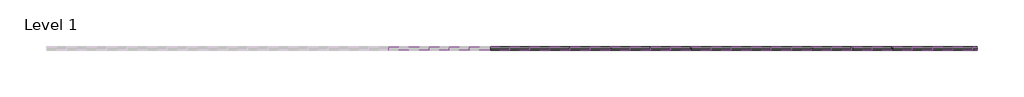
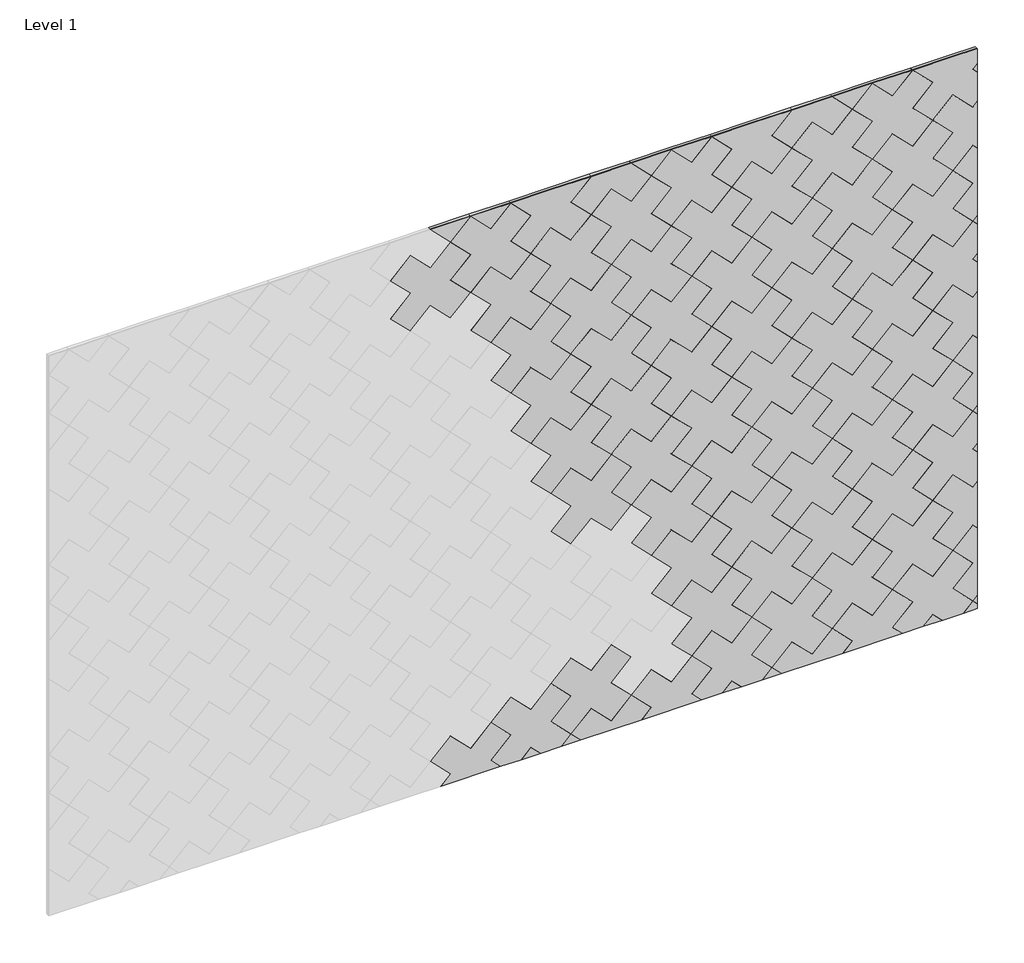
# One storey, part 2 of 2: 82 proxies.
"""IFC4 building model written with IfcOpenShell, lengths in millimetres."""

from ifc_helpers import new_model, si_unit, origin, place, context, project, spatial, transform, mapped, element, save
from components import plus_block_6a39ef65, plus_block_e310b0f0, plus_block_c1fa0fc9, plus_block_ed64af3b, plus_block_2c174317, plus_block_650cdf51, plus_block_13f65815, plus_block_0ad3cf2a, plus_block_45ecfcac, plus_block_6635bf12, plus_block_f5596ed8, plus_block_b4ba28bf, plus_block_2f8b0b56, plus_block_c293c2f2, plus_block_f8594fd8

model = new_model("IFC4")

# Units and contexts
model_context = context("Model", 3, world=origin())
ifc_project = project(units=[si_unit("LENGTHUNIT", "METRE", prefix="MILLI")], contexts=[model_context])

# Site, building, storey
site = spatial("IfcSite", under=ifc_project)
building = spatial("IfcBuilding", under=site)
storey = spatial("IfcBuildingStorey", under=building, Name="Level 1", Elevation=0.0)

# Proxies
placement = place(None, origin())
plus_block_shape = plus_block_6a39ef65(model_context)
element("IfcBuildingElementProxy", 1, Name="FilzFelt_Plus_Block : Plus Block", ObjectType="FilzFelt_Plus_Block : Plus Block", at=placement, inside=storey, context=model_context, shape_type="MappedRepresentation", body=[
    mapped(plus_block_shape, transform((21342.9703486, -17477.9339335, 1345.7765757), x_axis=(0.7071067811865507, 0.0, -0.7071067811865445), y_axis=(0.7071067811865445, 0.0, 0.7071067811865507), z_axis=(0.0, -1.0, 0.0))),
])
element("IfcBuildingElementProxy", 2, Name="FilzFelt_Plus_Block : Plus Block", ObjectType="FilzFelt_Plus_Block : Plus Block", at=placement, inside=storey, context=model_context, shape_type="MappedRepresentation", body=[
    mapped(plus_block_shape, transform((21630.5271062, -17477.9339335, 483.1063026), x_axis=(0.7071067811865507, 0.0, -0.7071067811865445), y_axis=(0.7071067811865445, 0.0, 0.7071067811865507), z_axis=(0.0, -1.0, 0.0))),
])
element("IfcBuildingElementProxy", 3, Name="FilzFelt_Plus_Block : Plus Block", ObjectType="FilzFelt_Plus_Block : Plus Block", at=placement, inside=storey, context=model_context, shape_type="MappedRepresentation", body=[
    mapped(plus_block_shape, transform((21774.3054851, -17477.9339335, 770.6630603), x_axis=(0.7071067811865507, 0.0, -0.7071067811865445), y_axis=(0.7071067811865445, 0.0, 0.7071067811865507), z_axis=(0.0, -1.0, 0.0))),
])
element("IfcBuildingElementProxy", 4, Name="FilzFelt_Plus_Block : Plus Block", ObjectType="FilzFelt_Plus_Block : Plus Block", at=placement, inside=storey, context=model_context, shape_type="MappedRepresentation", body=[
    mapped(plus_block_shape, transform((21989.9730533, -17477.9339335, 123.6603555), x_axis=(0.7071067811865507, 0.0, -0.7071067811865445), y_axis=(0.7071067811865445, 0.0, 0.7071067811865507), z_axis=(0.0, -1.0, 0.0))),
])
element("IfcBuildingElementProxy", 5, Name="FilzFelt_Plus_Block : Plus Block", ObjectType="FilzFelt_Plus_Block : Plus Block", at=placement, inside=storey, context=model_context, shape_type="MappedRepresentation", body=[
    mapped(plus_block_shape, transform((21630.5271062, -17477.9339335, 1201.9981968), x_axis=(0.7071067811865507, 0.0, -0.7071067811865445), y_axis=(0.7071067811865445, 0.0, 0.7071067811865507), z_axis=(0.0, -1.0, 0.0))),
])
element("IfcBuildingElementProxy", 6, Name="FilzFelt_Plus_Block : Plus Block", ObjectType="FilzFelt_Plus_Block : Plus Block", at=placement, inside=storey, context=model_context, shape_type="MappedRepresentation", body=[
    mapped(plus_block_shape, transform((21918.0838639, -17477.9339335, 1058.219818), x_axis=(0.7071067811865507, 0.0, -0.7071067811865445), y_axis=(0.7071067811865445, 0.0, 0.7071067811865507), z_axis=(0.0, -1.0, 0.0))),
])
element("IfcBuildingElementProxy", 7, Name="FilzFelt_Plus_Block : Plus Block", ObjectType="FilzFelt_Plus_Block : Plus Block", at=placement, inside=storey, context=model_context, shape_type="MappedRepresentation", body=[
    mapped(plus_block_shape, transform((22205.6406216, -17477.9339335, 914.4414391), x_axis=(0.7071067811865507, 0.0, -0.7071067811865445), y_axis=(0.7071067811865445, 0.0, 0.7071067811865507), z_axis=(0.0, -1.0, 0.0))),
])
element("IfcBuildingElementProxy", 8, Name="FilzFelt_Plus_Block : Plus Block", ObjectType="FilzFelt_Plus_Block : Plus Block", at=placement, inside=storey, context=model_context, shape_type="MappedRepresentation", body=[
    mapped(plus_block_shape, transform((22349.4190005, -17477.9339335, 483.1063026), x_axis=(0.7071067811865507, 0.0, -0.7071067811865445), y_axis=(0.7071067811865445, 0.0, 0.7071067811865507), z_axis=(0.0, -1.0, 0.0))),
])
element("IfcBuildingElementProxy", 9, Name="FilzFelt_Plus_Block : Plus Block", ObjectType="FilzFelt_Plus_Block : Plus Block", at=placement, inside=storey, context=model_context, shape_type="MappedRepresentation", body=[
    mapped(plus_block_shape, transform((22565.0865687, -17477.9339335, -163.8964022), x_axis=(0.7071067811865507, 0.0, -0.7071067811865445), y_axis=(0.7071067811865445, 0.0, 0.7071067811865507), z_axis=(0.0, -1.0, 0.0))),
])
element("IfcBuildingElementProxy", 10, Name="FilzFelt_Plus_Block : Plus Block", ObjectType="FilzFelt_Plus_Block : Plus Block", at=placement, inside=storey, context=model_context, shape_type="MappedRepresentation", body=[
    mapped(plus_block_shape, transform((22277.529811, -17477.9339335, 1417.6657651), x_axis=(0.7071067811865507, 0.0, -0.7071067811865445), y_axis=(0.7071067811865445, 0.0, 0.7071067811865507), z_axis=(0.0, -1.0, 0.0))),
])
element("IfcBuildingElementProxy", 11, Name="FilzFelt_Plus_Block : Plus Block", ObjectType="FilzFelt_Plus_Block : Plus Block", at=placement, inside=storey, context=model_context, shape_type="MappedRepresentation", body=[
    mapped(plus_block_shape, transform((22708.8649476, -17477.9339335, 123.6603555), x_axis=(0.7071067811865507, 0.0, -0.7071067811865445), y_axis=(0.7071067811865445, 0.0, 0.7071067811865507), z_axis=(0.0, -1.0, 0.0))),
])
element("IfcBuildingElementProxy", 12, Name="FilzFelt_Plus_Block : Plus Block", ObjectType="FilzFelt_Plus_Block : Plus Block", at=placement, inside=storey, context=model_context, shape_type="MappedRepresentation", body=[
    mapped(plus_block_shape, transform((22780.754137, -17477.9339335, 626.8846814), x_axis=(0.7071067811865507, 0.0, -0.7071067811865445), y_axis=(0.7071067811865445, 0.0, 0.7071067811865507), z_axis=(0.0, -1.0, 0.0))),
])
element("IfcBuildingElementProxy", 13, Name="FilzFelt_Plus_Block : Plus Block", ObjectType="FilzFelt_Plus_Block : Plus Block", at=placement, inside=storey, context=model_context, shape_type="MappedRepresentation", body=[
    mapped(plus_block_shape, transform((22780.754137, -17477.9339335, 1345.7765757), x_axis=(0.7071067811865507, 0.0, -0.7071067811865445), y_axis=(0.7071067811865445, 0.0, 0.7071067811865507), z_axis=(0.0, -1.0, 0.0))),
])
plus_block_2_shape = plus_block_e310b0f0(model_context)
element("IfcBuildingElementProxy", 14, Name="FilzFelt_Plus_Block : Plus Block", ObjectType="FilzFelt_Plus_Block : Plus Block", at=placement, inside=storey, context=model_context, shape_type="MappedRepresentation", body=[
    mapped(plus_block_2_shape, transform((21702.4162957, -17477.9339335, 1705.2225228), x_axis=(0.7071067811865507, 0.0, -0.7071067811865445), y_axis=(0.7071067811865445, 0.0, 0.7071067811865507), z_axis=(0.0, -1.0, 0.0))),
])
plus_block_3_shape = plus_block_c1fa0fc9(model_context)
element("IfcBuildingElementProxy", 15, Name="FilzFelt_Plus_Block : Plus Block", ObjectType="FilzFelt_Plus_Block : Plus Block", at=placement, inside=storey, context=model_context, shape_type="MappedRepresentation", body=[
    mapped(plus_block_3_shape, transform((22924.5325158, -17477.9339335, 1633.3333333), x_axis=(0.7071067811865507, 0.0, -0.7071067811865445), y_axis=(0.7071067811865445, 0.0, 0.7071067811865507), z_axis=(0.0, -1.0, 0.0))),
])
plus_block_4_shape = plus_block_ed64af3b(model_context)
element("IfcBuildingElementProxy", 16, Name="FilzFelt_Plus_Block : Plus Block", ObjectType="FilzFelt_Plus_Block : Plus Block", at=placement, inside=storey, context=model_context, shape_type="MappedRepresentation", body=[
    mapped(plus_block_4_shape, transform((23068.3108947, -17477.9339335, 483.1063026), x_axis=(0.7071067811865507, 0.0, -0.7071067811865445), y_axis=(0.7071067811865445, 0.0, 0.7071067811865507), z_axis=(0.0, -1.0, 0.0))),
])
element("IfcBuildingElementProxy", 17, Name="FilzFelt_Plus_Block : Plus Block", ObjectType="FilzFelt_Plus_Block : Plus Block", at=placement, inside=storey, context=model_context, shape_type="MappedRepresentation", body=[
    mapped(plus_block_4_shape, transform((23068.3108947, -17477.9339335, -235.7855916), x_axis=(0.7071067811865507, 0.0, -0.7071067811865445), y_axis=(0.7071067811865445, 0.0, 0.7071067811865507), z_axis=(0.0, -1.0, 0.0))),
])
plus_block_5_shape = plus_block_2c174317(model_context)
element("IfcBuildingElementProxy", 18, Name="FilzFelt_Plus_Block : Plus Block", ObjectType="FilzFelt_Plus_Block : Plus Block", at=placement, inside=storey, context=model_context, shape_type="MappedRepresentation", body=[
    mapped(plus_block_5_shape, transform((21702.4162957, -17477.9339335, -451.4531599), x_axis=(0.7071067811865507, 0.0, -0.7071067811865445), y_axis=(0.7071067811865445, 0.0, 0.7071067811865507), z_axis=(0.0, -1.0, 0.0))),
])
plus_block_6_shape = plus_block_650cdf51(model_context)
element("IfcBuildingElementProxy", 19, Name="FilzFelt_Plus_Block : Plus Block", ObjectType="FilzFelt_Plus_Block : Plus Block", at=placement, inside=storey, context=model_context, shape_type="MappedRepresentation", body=[
    mapped(plus_block_6_shape, transform((21414.859538, -17477.9339335, -307.674781), x_axis=(0.7071067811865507, 0.0, -0.7071067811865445), y_axis=(0.7071067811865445, 0.0, 0.7071067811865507), z_axis=(0.0, -1.0, 0.0))),
])
element("IfcBuildingElementProxy", 20, Name="FilzFelt_Plus_Block : Plus Block", ObjectType="FilzFelt_Plus_Block : Plus Block", at=placement, inside=storey, context=model_context, shape_type="MappedRepresentation", body=[
    mapped(plus_block_6_shape, transform((22133.7514322, -17477.9339335, -307.674781), x_axis=(0.7071067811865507, 0.0, -0.7071067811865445), y_axis=(0.7071067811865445, 0.0, 0.7071067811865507), z_axis=(0.0, -1.0, 0.0))),
])
plus_block_7_shape = plus_block_13f65815(model_context)
element("IfcBuildingElementProxy", 21, Name="FilzFelt_Plus_Block : Plus Block", ObjectType="FilzFelt_Plus_Block : Plus Block", at=placement, inside=storey, context=model_context, shape_type="MappedRepresentation", body=[
    mapped(plus_block_7_shape, transform((21486.7487274, -17477.9339335, -523.3423493), x_axis=(0.7071067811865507, 0.0, -0.7071067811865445), y_axis=(0.7071067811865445, 0.0, 0.7071067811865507), z_axis=(0.0, -1.0, 0.0))),
])
plus_block_8_shape = plus_block_0ad3cf2a(model_context)
element("IfcBuildingElementProxy", 22, Name="FilzFelt_Plus_Block : Plus Block", ObjectType="FilzFelt_Plus_Block : Plus Block", at=placement, inside=storey, context=model_context, shape_type="MappedRepresentation", body=[
    mapped(plus_block_8_shape, transform((22924.5325158, -17477.9339335, -523.3423493), x_axis=(0.7071067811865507, 0.0, -0.7071067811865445), y_axis=(0.7071067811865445, 0.0, 0.7071067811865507), z_axis=(0.0, -1.0, 0.0))),
])
plus_block_9_shape = plus_block_45ecfcac(model_context)
element("IfcBuildingElementProxy", 23, Name="FilzFelt_Plus_Block : Plus Block", ObjectType="FilzFelt_Plus_Block : Plus Block", at=placement, inside=storey, context=model_context, shape_type="MappedRepresentation", body=[
    mapped(plus_block_9_shape, transform((22636.9757581, -17477.9339335, 1777.1117122), x_axis=(0.7071067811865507, 0.0, -0.7071067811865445), y_axis=(0.7071067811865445, 0.0, 0.7071067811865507), z_axis=(0.0, -1.0, 0.0))),
])
plus_block_10_shape = plus_block_6635bf12(model_context)
element("IfcBuildingElementProxy", 24, Name="FilzFelt_Plus_Block : Plus Block", ObjectType="FilzFelt_Plus_Block : Plus Block", at=placement, inside=storey, context=model_context, shape_type="MappedRepresentation", body=[
    mapped(plus_block_10_shape, transform((23140.2000841, -17477.9339335, 1561.4441439), x_axis=(0.7071067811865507, 0.0, -0.7071067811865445), y_axis=(0.7071067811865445, 0.0, 0.7071067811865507), z_axis=(0.0, -1.0, 0.0))),
])
element("IfcBuildingElementProxy", 25, Name="FilzFelt_Plus_Block : Plus Block", ObjectType="FilzFelt_Plus_Block : Plus Block", at=placement, inside=storey, context=model_context, shape_type="MappedRepresentation", body=[
    mapped(plus_block_10_shape, transform((23140.2000841, -17477.9339335, -451.4531599), x_axis=(0.7071067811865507, 0.0, -0.7071067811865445), y_axis=(0.7071067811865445, 0.0, 0.7071067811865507), z_axis=(0.0, -1.0, 0.0))),
])
plus_block_11_shape = plus_block_f5596ed8(model_context)
element("IfcBuildingElementProxy", 26, Name="FilzFelt_Plus_Block : Plus Block", ObjectType="FilzFelt_Plus_Block : Plus Block", at=placement, inside=storey, context=model_context, shape_type="MappedRepresentation", body=[
    mapped(plus_block_11_shape, transform((23140.2000841, -17477.9339335, 986.3306285), x_axis=(0.7071067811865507, 0.0, -0.7071067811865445), y_axis=(0.7071067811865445, 0.0, 0.7071067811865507), z_axis=(0.0, -1.0, 0.0))),
])
element("IfcBuildingElementProxy", 27, Name="FilzFelt_Plus_Block : Plus Block", ObjectType="FilzFelt_Plus_Block : Plus Block", at=placement, inside=storey, context=model_context, shape_type="MappedRepresentation", body=[
    mapped(plus_block_11_shape, transform((23140.2000841, -17477.9339335, 267.4387343), x_axis=(0.7071067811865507, 0.0, -0.7071067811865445), y_axis=(0.7071067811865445, 0.0, 0.7071067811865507), z_axis=(0.0, -1.0, 0.0))),
])
element("IfcBuildingElementProxy", 28, Name="FilzFelt_Plus_Block : Plus Block", ObjectType="FilzFelt_Plus_Block : Plus Block", at=placement, inside=storey, context=model_context, shape_type="MappedRepresentation", body=[
    mapped(plus_block_shape, transform((21486.7487274, -17477.9339335, 914.4414391), x_axis=(0.7071067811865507, 0.0, -0.7071067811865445), y_axis=(0.7071067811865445, 0.0, 0.7071067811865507), z_axis=(0.0, -1.0, 0.0))),
])
element("IfcBuildingElementProxy", 29, Name="FilzFelt_Plus_Block : Plus Block", ObjectType="FilzFelt_Plus_Block : Plus Block", at=placement, inside=storey, context=model_context, shape_type="MappedRepresentation", body=[
    mapped(plus_block_shape, transform((22277.529811, -17477.9339335, -20.1180233), x_axis=(0.7071067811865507, 0.0, -0.7071067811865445), y_axis=(0.7071067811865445, 0.0, 0.7071067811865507), z_axis=(0.0, -1.0, 0.0))),
])
element("IfcBuildingElementProxy", 30, Name="FilzFelt_Plus_Block : Plus Block", ObjectType="FilzFelt_Plus_Block : Plus Block", at=placement, inside=storey, context=model_context, shape_type="MappedRepresentation", body=[
    mapped(plus_block_shape, transform((22133.7514322, -17477.9339335, 411.2171132), x_axis=(0.7071067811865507, 0.0, -0.7071067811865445), y_axis=(0.7071067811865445, 0.0, 0.7071067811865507), z_axis=(0.0, -1.0, 0.0))),
])
element("IfcBuildingElementProxy", 31, Name="FilzFelt_Plus_Block : Plus Block", ObjectType="FilzFelt_Plus_Block : Plus Block", at=placement, inside=storey, context=model_context, shape_type="MappedRepresentation", body=[
    mapped(plus_block_shape, transform((21989.9730533, -17477.9339335, 842.5522497), x_axis=(0.7071067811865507, 0.0, -0.7071067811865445), y_axis=(0.7071067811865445, 0.0, 0.7071067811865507), z_axis=(0.0, -1.0, 0.0))),
])
element("IfcBuildingElementProxy", 32, Name="FilzFelt_Plus_Block : Plus Block", ObjectType="FilzFelt_Plus_Block : Plus Block", at=placement, inside=storey, context=model_context, shape_type="MappedRepresentation", body=[
    mapped(plus_block_shape, transform((21774.3054851, -17477.9339335, 1489.5549545), x_axis=(0.7071067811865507, 0.0, -0.7071067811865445), y_axis=(0.7071067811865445, 0.0, 0.7071067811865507), z_axis=(0.0, -1.0, 0.0))),
])
element("IfcBuildingElementProxy", 33, Name="FilzFelt_Plus_Block : Plus Block", ObjectType="FilzFelt_Plus_Block : Plus Block", at=placement, inside=storey, context=model_context, shape_type="MappedRepresentation", body=[
    mapped(plus_block_shape, transform((22133.7514322, -17477.9339335, 1130.1090074), x_axis=(0.7071067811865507, 0.0, -0.7071067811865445), y_axis=(0.7071067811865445, 0.0, 0.7071067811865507), z_axis=(0.0, -1.0, 0.0))),
])
element("IfcBuildingElementProxy", 34, Name="FilzFelt_Plus_Block : Plus Block", ObjectType="FilzFelt_Plus_Block : Plus Block", at=placement, inside=storey, context=model_context, shape_type="MappedRepresentation", body=[
    mapped(plus_block_shape, transform((22277.529811, -17477.9339335, 698.7738709), x_axis=(0.7071067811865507, 0.0, -0.7071067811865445), y_axis=(0.7071067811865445, 0.0, 0.7071067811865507), z_axis=(0.0, -1.0, 0.0))),
])
element("IfcBuildingElementProxy", 35, Name="FilzFelt_Plus_Block : Plus Block", ObjectType="FilzFelt_Plus_Block : Plus Block", at=placement, inside=storey, context=model_context, shape_type="MappedRepresentation", body=[
    mapped(plus_block_shape, transform((22565.0865687, -17477.9339335, 554.995492), x_axis=(0.7071067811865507, 0.0, -0.7071067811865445), y_axis=(0.7071067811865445, 0.0, 0.7071067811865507), z_axis=(0.0, -1.0, 0.0))),
])
element("IfcBuildingElementProxy", 36, Name="FilzFelt_Plus_Block : Plus Block", ObjectType="FilzFelt_Plus_Block : Plus Block", at=placement, inside=storey, context=model_context, shape_type="MappedRepresentation", body=[
    mapped(plus_block_shape, transform((22708.8649476, -17477.9339335, 842.5522497), x_axis=(0.7071067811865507, 0.0, -0.7071067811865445), y_axis=(0.7071067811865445, 0.0, 0.7071067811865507), z_axis=(0.0, -1.0, 0.0))),
])
element("IfcBuildingElementProxy", 37, Name="FilzFelt_Plus_Block : Plus Block", ObjectType="FilzFelt_Plus_Block : Plus Block", at=placement, inside=storey, context=model_context, shape_type="MappedRepresentation", body=[
    mapped(plus_block_shape, transform((22565.0865687, -17477.9339335, 1273.8873862), x_axis=(0.7071067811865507, 0.0, -0.7071067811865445), y_axis=(0.7071067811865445, 0.0, 0.7071067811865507), z_axis=(0.0, -1.0, 0.0))),
])
element("IfcBuildingElementProxy", 38, Name="FilzFelt_Plus_Block : Plus Block", ObjectType="FilzFelt_Plus_Block : Plus Block", at=placement, inside=storey, context=model_context, shape_type="MappedRepresentation", body=[
    mapped(plus_block_shape, transform((22708.8649476, -17477.9339335, 1561.4441439), x_axis=(0.7071067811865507, 0.0, -0.7071067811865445), y_axis=(0.7071067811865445, 0.0, 0.7071067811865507), z_axis=(0.0, -1.0, 0.0))),
])
element("IfcBuildingElementProxy", 39, Name="FilzFelt_Plus_Block : Plus Block", ObjectType="FilzFelt_Plus_Block : Plus Block", at=placement, inside=storey, context=model_context, shape_type="MappedRepresentation", body=[
    mapped(plus_block_shape, transform((21630.5271062, -17477.9339335, -235.7855916), x_axis=(0.7071067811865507, 0.0, -0.7071067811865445), y_axis=(0.7071067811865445, 0.0, 0.7071067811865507), z_axis=(0.0, -1.0, 0.0))),
])
plus_block_12_shape = plus_block_b4ba28bf(model_context)
element("IfcBuildingElementProxy", 40, Name="FilzFelt_Plus_Block : Plus Block", ObjectType="FilzFelt_Plus_Block : Plus Block", at=placement, inside=storey, context=model_context, shape_type="MappedRepresentation", body=[
    mapped(plus_block_12_shape, transform((22205.6406216, -17477.9339335, 1633.3333333), x_axis=(0.7071067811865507, 0.0, -0.7071067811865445), y_axis=(0.7071067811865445, 0.0, 0.7071067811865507), z_axis=(0.0, -1.0, 0.0))),
])
element("IfcBuildingElementProxy", 41, Name="FilzFelt_Plus_Block : Plus Block", ObjectType="FilzFelt_Plus_Block : Plus Block", at=placement, inside=storey, context=model_context, shape_type="MappedRepresentation", body=[
    mapped(plus_block_5_shape, transform((22421.3081899, -17477.9339335, -451.4531599), x_axis=(0.7071067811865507, 0.0, -0.7071067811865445), y_axis=(0.7071067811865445, 0.0, 0.7071067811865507), z_axis=(0.0, -1.0, 0.0))),
])
plus_block_13_shape = plus_block_2f8b0b56(model_context)
element("IfcBuildingElementProxy", 42, Name="FilzFelt_Plus_Block : Plus Block", ObjectType="FilzFelt_Plus_Block : Plus Block", at=placement, inside=storey, context=model_context, shape_type="MappedRepresentation", body=[
    mapped(plus_block_13_shape, transform((22996.4217052, -17477.9339335, 698.7738709), x_axis=(0.7071067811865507, 0.0, -0.7071067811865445), y_axis=(0.7071067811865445, 0.0, 0.7071067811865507), z_axis=(0.0, -1.0, 0.0))),
])
plus_block_14_shape = plus_block_c293c2f2(model_context)
element("IfcBuildingElementProxy", 43, Name="FilzFelt_Plus_Block : Plus Block", ObjectType="FilzFelt_Plus_Block : Plus Block", at=placement, inside=storey, context=model_context, shape_type="MappedRepresentation", body=[
    mapped(plus_block_14_shape, transform((22924.5325158, -17477.9339335, 195.5495449), x_axis=(0.7071067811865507, 0.0, -0.7071067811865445), y_axis=(0.7071067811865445, 0.0, 0.7071067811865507), z_axis=(0.0, -1.0, 0.0))),
])
element("IfcBuildingElementProxy", 44, Name="FilzFelt_Plus_Block : Plus Block", ObjectType="FilzFelt_Plus_Block : Plus Block", at=placement, inside=storey, context=model_context, shape_type="MappedRepresentation", body=[
    mapped(plus_block_shape, transform((21055.4135909, -17477.9339335, 1489.5549545), x_axis=(0.7071067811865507, 0.0, -0.7071067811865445), y_axis=(0.7071067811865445, 0.0, 0.7071067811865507), z_axis=(0.0, -1.0, 0.0))),
])
element("IfcBuildingElementProxy", 45, Name="FilzFelt_Plus_Block : Plus Block", ObjectType="FilzFelt_Plus_Block : Plus Block", at=placement, inside=storey, context=model_context, shape_type="MappedRepresentation", body=[
    mapped(plus_block_shape, transform((21918.0838639, -17477.9339335, 339.3279238), x_axis=(0.7071067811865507, 0.0, -0.7071067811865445), y_axis=(0.7071067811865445, 0.0, 0.7071067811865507), z_axis=(0.0, -1.0, 0.0))),
])
element("IfcBuildingElementProxy", 46, Name="FilzFelt_Plus_Block : Plus Block", ObjectType="FilzFelt_Plus_Block : Plus Block", at=placement, inside=storey, context=model_context, shape_type="MappedRepresentation", body=[
    mapped(plus_block_shape, transform((22061.8622428, -17477.9339335, -92.0072128), x_axis=(0.7071067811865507, 0.0, -0.7071067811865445), y_axis=(0.7071067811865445, 0.0, 0.7071067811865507), z_axis=(0.0, -1.0, 0.0))),
])
element("IfcBuildingElementProxy", 47, Name="FilzFelt_Plus_Block : Plus Block", ObjectType="FilzFelt_Plus_Block : Plus Block", at=placement, inside=storey, context=model_context, shape_type="MappedRepresentation", body=[
    mapped(plus_block_shape, transform((22205.6406216, -17477.9339335, 195.5495449), x_axis=(0.7071067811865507, 0.0, -0.7071067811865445), y_axis=(0.7071067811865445, 0.0, 0.7071067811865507), z_axis=(0.0, -1.0, 0.0))),
])
element("IfcBuildingElementProxy", 48, Name="FilzFelt_Plus_Block : Plus Block", ObjectType="FilzFelt_Plus_Block : Plus Block", at=placement, inside=storey, context=model_context, shape_type="MappedRepresentation", body=[
    mapped(plus_block_shape, transform((22061.8622428, -17477.9339335, 626.8846814), x_axis=(0.7071067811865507, 0.0, -0.7071067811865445), y_axis=(0.7071067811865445, 0.0, 0.7071067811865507), z_axis=(0.0, -1.0, 0.0))),
])
element("IfcBuildingElementProxy", 49, Name="FilzFelt_Plus_Block : Plus Block", ObjectType="FilzFelt_Plus_Block : Plus Block", at=placement, inside=storey, context=model_context, shape_type="MappedRepresentation", body=[
    mapped(plus_block_shape, transform((21702.4162957, -17477.9339335, 986.3306285), x_axis=(0.7071067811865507, 0.0, -0.7071067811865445), y_axis=(0.7071067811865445, 0.0, 0.7071067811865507), z_axis=(0.0, -1.0, 0.0))),
])
element("IfcBuildingElementProxy", 50, Name="FilzFelt_Plus_Block : Plus Block", ObjectType="FilzFelt_Plus_Block : Plus Block", at=placement, inside=storey, context=model_context, shape_type="MappedRepresentation", body=[
    mapped(plus_block_shape, transform((21558.6379168, -17477.9339335, 1417.6657651), x_axis=(0.7071067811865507, 0.0, -0.7071067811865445), y_axis=(0.7071067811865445, 0.0, 0.7071067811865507), z_axis=(0.0, -1.0, 0.0))),
])
element("IfcBuildingElementProxy", 51, Name="FilzFelt_Plus_Block : Plus Block", ObjectType="FilzFelt_Plus_Block : Plus Block", at=placement, inside=storey, context=model_context, shape_type="MappedRepresentation", body=[
    mapped(plus_block_shape, transform((21846.1946745, -17477.9339335, 1273.8873862), x_axis=(0.7071067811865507, 0.0, -0.7071067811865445), y_axis=(0.7071067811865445, 0.0, 0.7071067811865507), z_axis=(0.0, -1.0, 0.0))),
])
element("IfcBuildingElementProxy", 52, Name="FilzFelt_Plus_Block : Plus Block", ObjectType="FilzFelt_Plus_Block : Plus Block", at=placement, inside=storey, context=model_context, shape_type="MappedRepresentation", body=[
    mapped(plus_block_shape, transform((21989.9730533, -17477.9339335, 1561.4441439), x_axis=(0.7071067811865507, 0.0, -0.7071067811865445), y_axis=(0.7071067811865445, 0.0, 0.7071067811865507), z_axis=(0.0, -1.0, 0.0))),
])
element("IfcBuildingElementProxy", 53, Name="FilzFelt_Plus_Block : Plus Block", ObjectType="FilzFelt_Plus_Block : Plus Block", at=placement, inside=storey, context=model_context, shape_type="MappedRepresentation", body=[
    mapped(plus_block_shape, transform((22493.1973793, -17477.9339335, 51.7711661), x_axis=(0.7071067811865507, 0.0, -0.7071067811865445), y_axis=(0.7071067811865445, 0.0, 0.7071067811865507), z_axis=(0.0, -1.0, 0.0))),
])
element("IfcBuildingElementProxy", 54, Name="FilzFelt_Plus_Block : Plus Block", ObjectType="FilzFelt_Plus_Block : Plus Block", at=placement, inside=storey, context=model_context, shape_type="MappedRepresentation", body=[
    mapped(plus_block_shape, transform((22349.4190005, -17477.9339335, 1201.9981968), x_axis=(0.7071067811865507, 0.0, -0.7071067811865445), y_axis=(0.7071067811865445, 0.0, 0.7071067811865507), z_axis=(0.0, -1.0, 0.0))),
])
element("IfcBuildingElementProxy", 55, Name="FilzFelt_Plus_Block : Plus Block", ObjectType="FilzFelt_Plus_Block : Plus Block", at=placement, inside=storey, context=model_context, shape_type="MappedRepresentation", body=[
    mapped(plus_block_shape, transform((22493.1973793, -17477.9339335, 770.6630603), x_axis=(0.7071067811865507, 0.0, -0.7071067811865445), y_axis=(0.7071067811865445, 0.0, 0.7071067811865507), z_axis=(0.0, -1.0, 0.0))),
])
element("IfcBuildingElementProxy", 56, Name="FilzFelt_Plus_Block : Plus Block", ObjectType="FilzFelt_Plus_Block : Plus Block", at=placement, inside=storey, context=model_context, shape_type="MappedRepresentation", body=[
    mapped(plus_block_shape, transform((22636.9757581, -17477.9339335, 1058.219818), x_axis=(0.7071067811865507, 0.0, -0.7071067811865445), y_axis=(0.7071067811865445, 0.0, 0.7071067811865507), z_axis=(0.0, -1.0, 0.0))),
])
element("IfcBuildingElementProxy", 57, Name="FilzFelt_Plus_Block : Plus Block", ObjectType="FilzFelt_Plus_Block : Plus Block", at=placement, inside=storey, context=model_context, shape_type="MappedRepresentation", body=[
    mapped(plus_block_shape, transform((22349.4190005, -17477.9339335, -235.7855916), x_axis=(0.7071067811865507, 0.0, -0.7071067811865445), y_axis=(0.7071067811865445, 0.0, 0.7071067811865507), z_axis=(0.0, -1.0, 0.0))),
])
element("IfcBuildingElementProxy", 58, Name="FilzFelt_Plus_Block : Plus Block", ObjectType="FilzFelt_Plus_Block : Plus Block", at=placement, inside=storey, context=model_context, shape_type="MappedRepresentation", body=[
    mapped(plus_block_12_shape, transform((21486.7487274, -17477.9339335, 1633.3333333), x_axis=(0.7071067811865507, 0.0, -0.7071067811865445), y_axis=(0.7071067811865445, 0.0, 0.7071067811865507), z_axis=(0.0, -1.0, 0.0))),
])
element("IfcBuildingElementProxy", 59, Name="FilzFelt_Plus_Block : Plus Block", ObjectType="FilzFelt_Plus_Block : Plus Block", at=placement, inside=storey, context=model_context, shape_type="MappedRepresentation", body=[
    mapped(plus_block_9_shape, transform((21199.1919697, -17477.9339335, 1777.1117122), x_axis=(0.7071067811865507, 0.0, -0.7071067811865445), y_axis=(0.7071067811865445, 0.0, 0.7071067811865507), z_axis=(0.0, -1.0, 0.0))),
])
element("IfcBuildingElementProxy", 60, Name="FilzFelt_Plus_Block : Plus Block", ObjectType="FilzFelt_Plus_Block : Plus Block", at=placement, inside=storey, context=model_context, shape_type="MappedRepresentation", body=[
    mapped(plus_block_9_shape, transform((21918.0838639, -17477.9339335, 1777.1117122), x_axis=(0.7071067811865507, 0.0, -0.7071067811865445), y_axis=(0.7071067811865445, 0.0, 0.7071067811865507), z_axis=(0.0, -1.0, 0.0))),
])
element("IfcBuildingElementProxy", 61, Name="FilzFelt_Plus_Block : Plus Block", ObjectType="FilzFelt_Plus_Block : Plus Block", at=placement, inside=storey, context=model_context, shape_type="MappedRepresentation", body=[
    mapped(plus_block_2_shape, transform((22421.3081899, -17477.9339335, 1705.2225228), x_axis=(0.7071067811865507, 0.0, -0.7071067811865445), y_axis=(0.7071067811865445, 0.0, 0.7071067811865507), z_axis=(0.0, -1.0, 0.0))),
])
element("IfcBuildingElementProxy", 62, Name="FilzFelt_Plus_Block : Plus Block", ObjectType="FilzFelt_Plus_Block : Plus Block", at=placement, inside=storey, context=model_context, shape_type="MappedRepresentation", body=[
    mapped(plus_block_13_shape, transform((22996.4217052, -17477.9339335, 1417.6657651), x_axis=(0.7071067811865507, 0.0, -0.7071067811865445), y_axis=(0.7071067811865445, 0.0, 0.7071067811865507), z_axis=(0.0, -1.0, 0.0))),
])
element("IfcBuildingElementProxy", 63, Name="FilzFelt_Plus_Block : Plus Block", ObjectType="FilzFelt_Plus_Block : Plus Block", at=placement, inside=storey, context=model_context, shape_type="MappedRepresentation", body=[
    mapped(plus_block_13_shape, transform((22996.4217052, -17477.9339335, -20.1180233), x_axis=(0.7071067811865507, 0.0, -0.7071067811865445), y_axis=(0.7071067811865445, 0.0, 0.7071067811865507), z_axis=(0.0, -1.0, 0.0))),
])
element("IfcBuildingElementProxy", 64, Name="FilzFelt_Plus_Block : Plus Block", ObjectType="FilzFelt_Plus_Block : Plus Block", at=placement, inside=storey, context=model_context, shape_type="MappedRepresentation", body=[
    mapped(plus_block_14_shape, transform((22924.5325158, -17477.9339335, 914.4414391), x_axis=(0.7071067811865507, 0.0, -0.7071067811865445), y_axis=(0.7071067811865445, 0.0, 0.7071067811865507), z_axis=(0.0, -1.0, 0.0))),
])
element("IfcBuildingElementProxy", 65, Name="FilzFelt_Plus_Block : Plus Block", ObjectType="FilzFelt_Plus_Block : Plus Block", at=placement, inside=storey, context=model_context, shape_type="MappedRepresentation", body=[
    mapped(plus_block_shape, transform((22852.6433264, -17477.9339335, 411.2171132), x_axis=(0.7071067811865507, 0.0, -0.7071067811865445), y_axis=(0.7071067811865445, 0.0, 0.7071067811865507), z_axis=(0.0, -1.0, 0.0))),
])
plus_block_15_shape = plus_block_f8594fd8(model_context)
element("IfcBuildingElementProxy", 66, Name="FilzFelt_Plus_Block : Plus Block", ObjectType="FilzFelt_Plus_Block : Plus Block", at=placement, inside=storey, context=model_context, shape_type="MappedRepresentation", body=[
    mapped(plus_block_15_shape, transform((22636.9757581, -17477.9339335, -379.5639704), x_axis=(0.7071067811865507, 0.0, -0.7071067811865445), y_axis=(0.7071067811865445, 0.0, 0.7071067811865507), z_axis=(0.0, -1.0, 0.0))),
])
element("IfcBuildingElementProxy", 67, Name="FilzFelt_Plus_Block : Plus Block", ObjectType="FilzFelt_Plus_Block : Plus Block", at=placement, inside=storey, context=model_context, shape_type="MappedRepresentation", body=[
    mapped(plus_block_shape, transform((21271.0811591, -17477.9339335, 1561.4441439), x_axis=(0.7071067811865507, 0.0, -0.7071067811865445), y_axis=(0.7071067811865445, 0.0, 0.7071067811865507), z_axis=(0.0, -1.0, 0.0))),
])
element("IfcBuildingElementProxy", 68, Name="FilzFelt_Plus_Block : Plus Block", ObjectType="FilzFelt_Plus_Block : Plus Block", at=placement, inside=storey, context=model_context, shape_type="MappedRepresentation", body=[
    mapped(plus_block_shape, transform((21414.859538, -17477.9339335, 1130.1090074), x_axis=(0.7071067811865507, 0.0, -0.7071067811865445), y_axis=(0.7071067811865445, 0.0, 0.7071067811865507), z_axis=(0.0, -1.0, 0.0))),
])
element("IfcBuildingElementProxy", 69, Name="FilzFelt_Plus_Block : Plus Block", ObjectType="FilzFelt_Plus_Block : Plus Block", at=placement, inside=storey, context=model_context, shape_type="MappedRepresentation", body=[
    mapped(plus_block_shape, transform((21846.1946745, -17477.9339335, 554.995492), x_axis=(0.7071067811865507, 0.0, -0.7071067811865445), y_axis=(0.7071067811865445, 0.0, 0.7071067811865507), z_axis=(0.0, -1.0, 0.0))),
])
element("IfcBuildingElementProxy", 70, Name="FilzFelt_Plus_Block : Plus Block", ObjectType="FilzFelt_Plus_Block : Plus Block", at=placement, inside=storey, context=model_context, shape_type="MappedRepresentation", body=[
    mapped(plus_block_shape, transform((22421.3081899, -17477.9339335, 267.4387343), x_axis=(0.7071067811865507, 0.0, -0.7071067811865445), y_axis=(0.7071067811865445, 0.0, 0.7071067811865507), z_axis=(0.0, -1.0, 0.0))),
])
element("IfcBuildingElementProxy", 71, Name="FilzFelt_Plus_Block : Plus Block", ObjectType="FilzFelt_Plus_Block : Plus Block", at=placement, inside=storey, context=model_context, shape_type="MappedRepresentation", body=[
    mapped(plus_block_shape, transform((22493.1973793, -17477.9339335, 1489.5549545), x_axis=(0.7071067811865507, 0.0, -0.7071067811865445), y_axis=(0.7071067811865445, 0.0, 0.7071067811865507), z_axis=(0.0, -1.0, 0.0))),
])
element("IfcBuildingElementProxy", 72, Name="FilzFelt_Plus_Block : Plus Block", ObjectType="FilzFelt_Plus_Block : Plus Block", at=placement, inside=storey, context=model_context, shape_type="MappedRepresentation", body=[
    mapped(plus_block_4_shape, transform((23068.3108947, -17477.9339335, 1201.9981968), x_axis=(0.7071067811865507, 0.0, -0.7071067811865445), y_axis=(0.7071067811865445, 0.0, 0.7071067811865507), z_axis=(0.0, -1.0, 0.0))),
])
element("IfcBuildingElementProxy", 73, Name="FilzFelt_Plus_Block : Plus Block", ObjectType="FilzFelt_Plus_Block : Plus Block", at=placement, inside=storey, context=model_context, shape_type="MappedRepresentation", body=[
    mapped(plus_block_15_shape, transform((21918.0838639, -17477.9339335, -379.5639704), x_axis=(0.7071067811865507, 0.0, -0.7071067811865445), y_axis=(0.7071067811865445, 0.0, 0.7071067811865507), z_axis=(0.0, -1.0, 0.0))),
])
element("IfcBuildingElementProxy", 74, Name="FilzFelt_Plus_Block : Plus Block", ObjectType="FilzFelt_Plus_Block : Plus Block", at=placement, inside=storey, context=model_context, shape_type="MappedRepresentation", body=[
    mapped(plus_block_7_shape, transform((22205.6406216, -17477.9339335, -523.3423493), x_axis=(0.7071067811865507, 0.0, -0.7071067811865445), y_axis=(0.7071067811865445, 0.0, 0.7071067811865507), z_axis=(0.0, -1.0, 0.0))),
])
element("IfcBuildingElementProxy", 75, Name="FilzFelt_Plus_Block : Plus Block", ObjectType="FilzFelt_Plus_Block : Plus Block", at=placement, inside=storey, context=model_context, shape_type="MappedRepresentation", body=[
    mapped(plus_block_6_shape, transform((22852.6433264, -17477.9339335, -307.674781), x_axis=(0.7071067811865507, 0.0, -0.7071067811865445), y_axis=(0.7071067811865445, 0.0, 0.7071067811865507), z_axis=(0.0, -1.0, 0.0))),
])
element("IfcBuildingElementProxy", 76, Name="FilzFelt_Plus_Block : Plus Block", ObjectType="FilzFelt_Plus_Block : Plus Block", at=placement, inside=storey, context=model_context, shape_type="MappedRepresentation", body=[
    mapped(plus_block_shape, transform((21558.6379168, -17477.9339335, 698.7738709), x_axis=(0.7071067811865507, 0.0, -0.7071067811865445), y_axis=(0.7071067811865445, 0.0, 0.7071067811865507), z_axis=(0.0, -1.0, 0.0))),
])
element("IfcBuildingElementProxy", 77, Name="FilzFelt_Plus_Block : Plus Block", ObjectType="FilzFelt_Plus_Block : Plus Block", at=placement, inside=storey, context=model_context, shape_type="MappedRepresentation", body=[
    mapped(plus_block_shape, transform((22061.8622428, -17477.9339335, 1345.7765757), x_axis=(0.7071067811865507, 0.0, -0.7071067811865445), y_axis=(0.7071067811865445, 0.0, 0.7071067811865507), z_axis=(0.0, -1.0, 0.0))),
])
element("IfcBuildingElementProxy", 78, Name="FilzFelt_Plus_Block : Plus Block", ObjectType="FilzFelt_Plus_Block : Plus Block", at=placement, inside=storey, context=model_context, shape_type="MappedRepresentation", body=[
    mapped(plus_block_shape, transform((22421.3081899, -17477.9339335, 986.3306285), x_axis=(0.7071067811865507, 0.0, -0.7071067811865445), y_axis=(0.7071067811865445, 0.0, 0.7071067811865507), z_axis=(0.0, -1.0, 0.0))),
])
element("IfcBuildingElementProxy", 79, Name="FilzFelt_Plus_Block : Plus Block", ObjectType="FilzFelt_Plus_Block : Plus Block", at=placement, inside=storey, context=model_context, shape_type="MappedRepresentation", body=[
    mapped(plus_block_shape, transform((22636.9757581, -17477.9339335, 339.3279238), x_axis=(0.7071067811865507, 0.0, -0.7071067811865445), y_axis=(0.7071067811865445, 0.0, 0.7071067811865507), z_axis=(0.0, -1.0, 0.0))),
])
element("IfcBuildingElementProxy", 80, Name="FilzFelt_Plus_Block : Plus Block", ObjectType="FilzFelt_Plus_Block : Plus Block", at=placement, inside=storey, context=model_context, shape_type="MappedRepresentation", body=[
    mapped(plus_block_shape, transform((22780.754137, -17477.9339335, -92.0072128), x_axis=(0.7071067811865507, 0.0, -0.7071067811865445), y_axis=(0.7071067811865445, 0.0, 0.7071067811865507), z_axis=(0.0, -1.0, 0.0))),
])
element("IfcBuildingElementProxy", 81, Name="FilzFelt_Plus_Block : Plus Block", ObjectType="FilzFelt_Plus_Block : Plus Block", at=placement, inside=storey, context=model_context, shape_type="MappedRepresentation", body=[
    mapped(plus_block_shape, transform((22852.6433264, -17477.9339335, 1130.1090074), x_axis=(0.7071067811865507, 0.0, -0.7071067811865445), y_axis=(0.7071067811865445, 0.0, 0.7071067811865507), z_axis=(0.0, -1.0, 0.0))),
])
element("IfcBuildingElementProxy", 82, Name="FilzFelt_Plus_Block : Plus Block", ObjectType="FilzFelt_Plus_Block : Plus Block", at=placement, inside=storey, context=model_context, shape_type="MappedRepresentation", body=[
    mapped(plus_block_15_shape, transform((21199.1919697, -17477.9339335, -379.5639704), x_axis=(0.7071067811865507, 0.0, -0.7071067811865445), y_axis=(0.7071067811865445, 0.0, 0.7071067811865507), z_axis=(0.0, -1.0, 0.0))),
])

save(model, "model.ifc")
